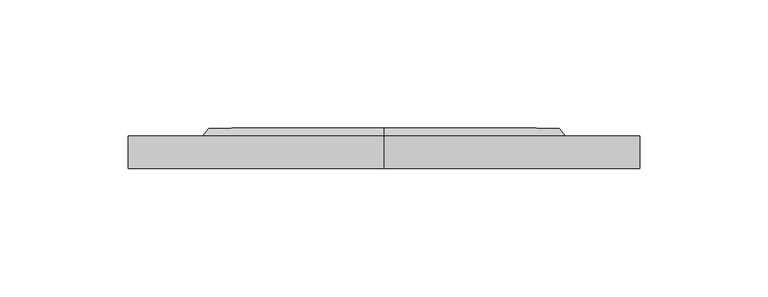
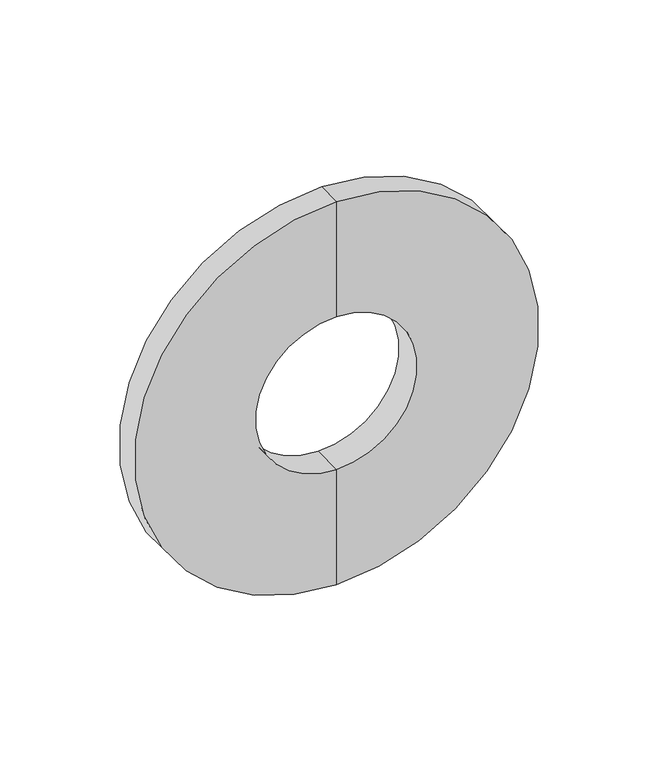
"""IFC4 building model written with IfcOpenShell, lengths in millimetres: pipe fitting geometry, Фланец : Фланец."""

from ifc_helpers import new_model, si_unit, frame, origin, place, context, project, spatial, polyline, circle_curve, source, transform, mapped, element, save
from ifc_brep_helpers import plane_surface, cylinder_surface, revolved_surface, advanced_brep


def pipe_fitting_800c468c(model_context):
    return source(origin(), model_context, "Body", "AdvancedBrep", [
        advanced_brep(
        [(0.0, 0.0, -100.0), (0.0, 0.0, 100.0), (0.0, 12.7, 100.0), (0.0, 12.7, -100.0), (0.0, 0.0, -40.0), (0.0, 0.0, 40.0), (0.0, 15.7, -40.0), (0.0, 15.7, 40.0), (0.0, 15.7, -68.5), (0.0, 15.7, 68.5), (0.0, 12.7, -71.0), (0.0, 12.7, 71.0)],
        [
            (0, 1, circle_curve(frame((0.0, 0.0, 0.0), z_axis=(0.0, 1.0, 0.0), x_axis=(0.0, 0.0, 1.0)), 100.0)),
            (1, 2),
            (2, 3, circle_curve(frame((0.0, 12.7, 0.0), z_axis=(0.0, -1.0, 0.0), x_axis=(0.0, 0.0, 1.0)), 100.0)),
            (3, 0),
            (1, 0, circle_curve(frame((0.0, 0.0, 0.0), z_axis=(0.0, 1.0, 0.0), x_axis=(0.0, 0.0, 1.0)), 100.0)),
            (3, 2, circle_curve(frame((0.0, 12.7, 0.0), z_axis=(0.0, -1.0, 0.0), x_axis=(0.0, 0.0, 1.0)), 100.0)),
            (4, 5, circle_curve(frame((0.0, 0.0, 0.0), z_axis=(0.0, 1.0, 0.0), x_axis=(0.0, 0.0, 1.0)), 40.0)),
            (5, 1),
            (0, 4),
            (5, 4, circle_curve(frame((0.0, 0.0, 0.0), z_axis=(0.0, 1.0, 0.0), x_axis=(0.0, 0.0, 1.0)), 40.0)),
            (6, 7, circle_curve(frame((0.0, 15.7, 0.0), z_axis=(0.0, 1.0, 0.0), x_axis=(0.0, 0.0, 1.0)), 40.0)),
            (7, 5),
            (4, 6),
            (7, 6, circle_curve(frame((0.0, 15.7, 0.0), z_axis=(0.0, 1.0, 0.0), x_axis=(0.0, 0.0, 1.0)), 40.0)),
            (8, 9, circle_curve(frame((0.0, 15.7, 0.0), z_axis=(0.0, 1.0, 0.0), x_axis=(0.0, 0.0, 1.0)), 68.5)),
            (9, 7),
            (6, 8),
            (9, 8, circle_curve(frame((0.0, 15.7, 0.0), z_axis=(0.0, 1.0, 0.0), x_axis=(0.0, 0.0, 1.0)), 68.5)),
            (10, 11, circle_curve(frame((0.0, 12.7, 0.0), z_axis=(0.0, 1.0, 0.0), x_axis=(0.0, 0.0, 1.0)), 71.0)),
            (11, 9),
            (8, 10),
            (11, 10, circle_curve(frame((0.0, 12.7, 0.0), z_axis=(0.0, 1.0, 0.0), x_axis=(0.0, 0.0, 1.0)), 71.0)),
            (2, 11),
            (10, 3),
        ],
        [
            cylinder_surface(frame((0.0, -60.0, 0.0), z_axis=(0.0, -1.0, 0.0), x_axis=(0.0, 0.0, 1.0)), 100.0),
            plane_surface(frame((0.0, 0.0, 0.0), z_axis=(0.0, -1.0, 0.0), x_axis=(0.0, 0.0, 1.0))),
            revolved_surface(polyline([(0.0, 0.0, 40.0), (0.0, 15.700000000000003, 40.0)]), (0.0, -60.0, 0.0), (0.0, -1.0, 0.0)),
            plane_surface(frame((0.0, 15.7, 0.0), z_axis=(0.0, 1.0, 0.0), x_axis=(0.0, 0.0, 1.0))),
            revolved_surface(polyline([(0.0, 15.7, 68.5), (0.0, 12.7, 71.0)]), (0.0, -60.0, 0.0), (0.0, -1.0, 0.0)),
            plane_surface(frame((0.0, 12.7, 0.0), z_axis=(0.0, 1.0, 0.0), x_axis=(0.0, 0.0, 1.0))),
        ],
        [
            (0, [[1, 2, 3, 4]]),
            (0, [[5, -4, 6, -2]]),
            (1, [[7, 8, -1, 9]]),
            (1, [[10, -9, -5, -8]]),
            (2, [[11, 12, -7, 13]]),
            (2, [[14, -13, -10, -12]]),
            (3, [[15, 16, -11, 17]]),
            (3, [[18, -17, -14, -16]]),
            (4, [[19, 20, -15, 21]]),
            (4, [[22, -21, -18, -20]]),
            (5, [[-3, 23, -19, 24]]),
            (5, [[-6, -24, -22, -23]]),
        ],
    ),
    ])


if __name__ == "__main__":
    model = new_model("IFC4")
    model_context = context("Model", 3, world=origin())
    ifc_project = project(units=[si_unit("LENGTHUNIT", "METRE", prefix="MILLI")], contexts=[model_context])
    site = spatial("IfcSite", under=ifc_project)
    building = spatial("IfcBuilding", under=site)
    placement = place(None, origin())
    pipe_fitting_shape = pipe_fitting_800c468c(model_context)
    element("IfcPipeFitting", 1, ObjectType="Фланец : Фланец", at=placement, inside=building, context=model_context, shape_type="MappedRepresentation", body=[
        mapped(pipe_fitting_shape, transform((0.0, 0.0, 0.0), x_axis=(1.0, 0.0, 0.0), y_axis=(0.0, 1.0, 0.0), z_axis=(0.0, 0.0, 1.0))),
    ])
    save(model, "model.ifc")
